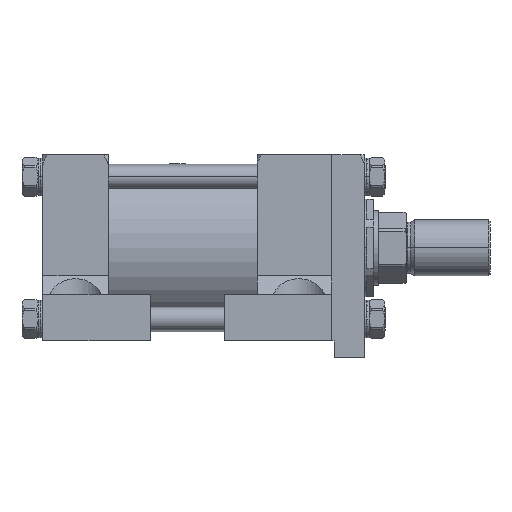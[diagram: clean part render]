
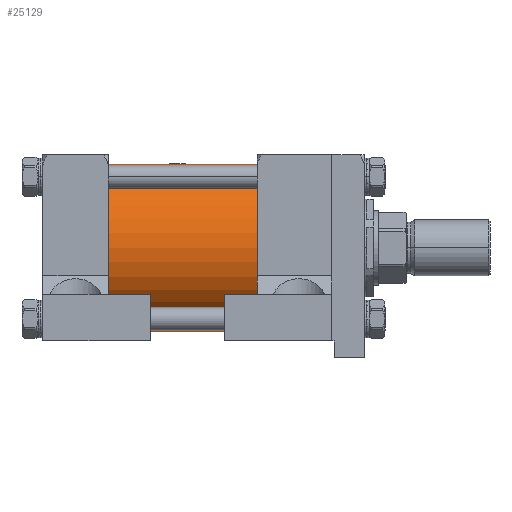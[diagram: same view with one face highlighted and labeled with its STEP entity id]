
A CAD part, front view. The second image highlights one B-rep face of the part: STEP entity #25129.
In plain terms, the highlighted cylindrical face has radius 57.15 mm (diameter 114.3 mm), a partial arc.
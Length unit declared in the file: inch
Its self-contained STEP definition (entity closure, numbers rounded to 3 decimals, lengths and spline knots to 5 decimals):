
#6441 = VERTEX_POINT ( 'NONE', #36180 ) ;
#8313 = CARTESIAN_POINT ( 'NONE',  ( -3.75, 0., 0. ) ) ;
#8638 = DIRECTION ( 'NONE',  ( 1., 0., 0. ) ) ;
#8868 = FACE_OUTER_BOUND ( 'NONE', #35885, .T. ) ;
#9721 = VERTEX_POINT ( 'NONE', #12523 ) ;
#10120 = DIRECTION ( 'NONE',  ( 0., 0., -1. ) ) ;
#11905 = CARTESIAN_POINT ( 'NONE',  ( -3.75, 0., -2.25 ) ) ;
#12523 = CARTESIAN_POINT ( 'NONE',  ( -8.25, 0., 2.25 ) ) ;
#13022 = LINE ( 'NONE', #21751, #44392 ) ;
#14046 = ORIENTED_EDGE ( 'NONE', *, *, #57666, .T. ) ;
#14725 = AXIS2_PLACEMENT_3D ( 'NONE', #37977, #47298, #58194 ) ;
#15323 = AXIS2_PLACEMENT_3D ( 'NONE', #42800, #48093, #10120 ) ;
#20339 = LINE ( 'NONE', #54304, #40443 ) ;
#21751 = CARTESIAN_POINT ( 'NONE',  ( -8.25, 0., 2.25 ) ) ;
#22785 = ORIENTED_EDGE ( 'NONE', *, *, #52611, .F. ) ;
#22973 = AXIS2_PLACEMENT_3D ( 'NONE', #8313, #8638, #30565 ) ;
#23417 = VERTEX_POINT ( 'NONE', #11905 ) ;
#25129 = ADVANCED_FACE ( 'NONE', ( #8868 ), #41272, .T. ) ;
#25663 = DIRECTION ( 'NONE',  ( 1., 0., 0. ) ) ;
#27990 = CIRCLE ( 'NONE', #22973, 2.25 ) ;
#30565 = DIRECTION ( 'NONE',  ( 0., 1., 0. ) ) ;
#33850 = ORIENTED_EDGE ( 'NONE', *, *, #55604, .T. ) ;
#35318 = VERTEX_POINT ( 'NONE', #59014 ) ;
#35885 = EDGE_LOOP ( 'NONE', ( #22785, #14046, #33850, #51140 ) ) ;
#36180 = CARTESIAN_POINT ( 'NONE',  ( -8.25, 0., -2.25 ) ) ;
#37977 = CARTESIAN_POINT ( 'NONE',  ( -8.25, 0., 0. ) ) ;
#38644 = EDGE_CURVE ( 'NONE', #35318, #23417, #27990, .T. ) ;
#40443 = VECTOR ( 'NONE', #25663, 39.37008 ) ;
#41272 = CYLINDRICAL_SURFACE ( 'NONE', #15323, 2.25 ) ;
#42800 = CARTESIAN_POINT ( 'NONE',  ( -8.25, 0., 0. ) ) ;
#44392 = VECTOR ( 'NONE', #55992, 39.37008 ) ;
#46552 = CIRCLE ( 'NONE', #14725, 2.25 ) ;
#47298 = DIRECTION ( 'NONE',  ( 1., 0., 0. ) ) ;
#48093 = DIRECTION ( 'NONE',  ( 1., 0., 0. ) ) ;
#51140 = ORIENTED_EDGE ( 'NONE', *, *, #38644, .F. ) ;
#52611 = EDGE_CURVE ( 'NONE', #9721, #35318, #13022, .T. ) ;
#54304 = CARTESIAN_POINT ( 'NONE',  ( -8.25, 0., -2.25 ) ) ;
#55604 = EDGE_CURVE ( 'NONE', #6441, #23417, #20339, .T. ) ;
#55992 = DIRECTION ( 'NONE',  ( 1., 0., 0. ) ) ;
#57666 = EDGE_CURVE ( 'NONE', #9721, #6441, #46552, .T. ) ;
#58194 = DIRECTION ( 'NONE',  ( 0., 1., 0. ) ) ;
#59014 = CARTESIAN_POINT ( 'NONE',  ( -3.75, 0., 2.25 ) ) ;
